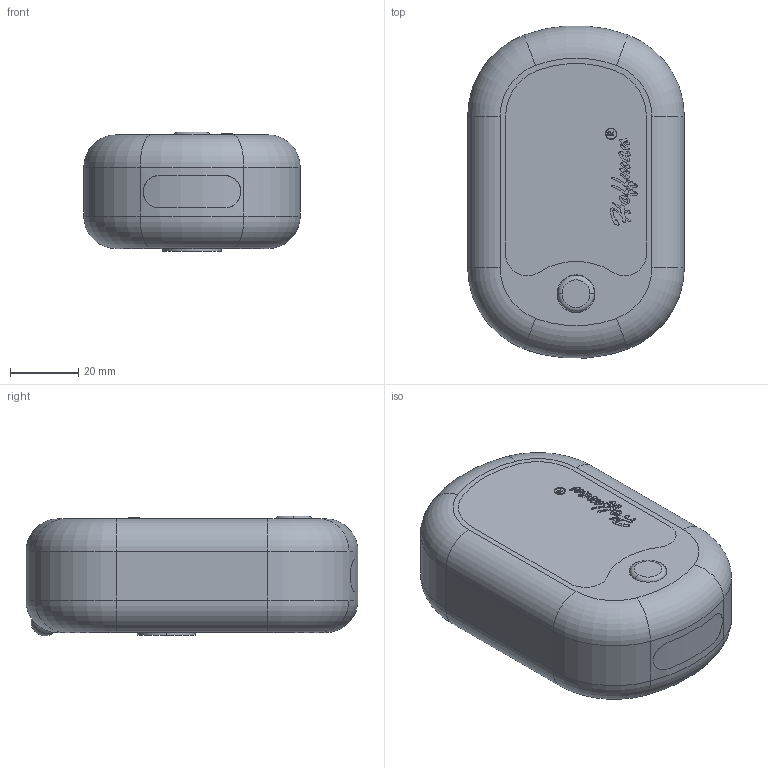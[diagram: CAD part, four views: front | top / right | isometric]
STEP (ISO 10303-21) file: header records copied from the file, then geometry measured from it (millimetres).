
FILE_DESCRIPTION (( 'STEP AP203' ), '1' );
FILE_NAME ('ledpuck.STEP', '2012-12-07T15:33:45', ( 'User' ), ( 'Pentair Inc' ), 'SwSTEP 2.0', 'SolidWorks 2010', '' );
FILE_SCHEMA (( 'CONFIG_CONTROL_DESIGN' ));
Length unit declared in the file: inch
Products named in the file (8): 89097582; ledpuck; 89097580_CR-PHMS 0.112-40x0.4375x0.4375-C; 89097579; 89097581; 89097585; 89097584; 89097583
Assembly tree (10 placements, depth 2):
  ledpuck
    89097579  x3
    89097582
    89097581
    89097583
    89097580_CR-PHMS 0.112-40x0.4375x0.4375-C  x2
    89097585
    89097584
Bounding box: 63.5 x 97.31 x 35.09 mm (x, y, z)
Volume: 139501.7 mm3; surface area: 48392.5 mm2
Topology: 15 solids, 15 shells, 583 faces, 1402 edges, 896 vertices
Faces by surface type: cylinder 171, bspline 154, plane 144, torus 108, sphere 6
Entity records: 22685 total; most frequent: CARTESIAN_POINT 9800, ORIENTED_EDGE 2598, DIRECTION 2275, EDGE_CURVE 1299, AXIS2_PLACEMENT_3D 908, VERTEX_POINT 835, EDGE_LOOP 596, FACE_OUTER_BOUND 534
